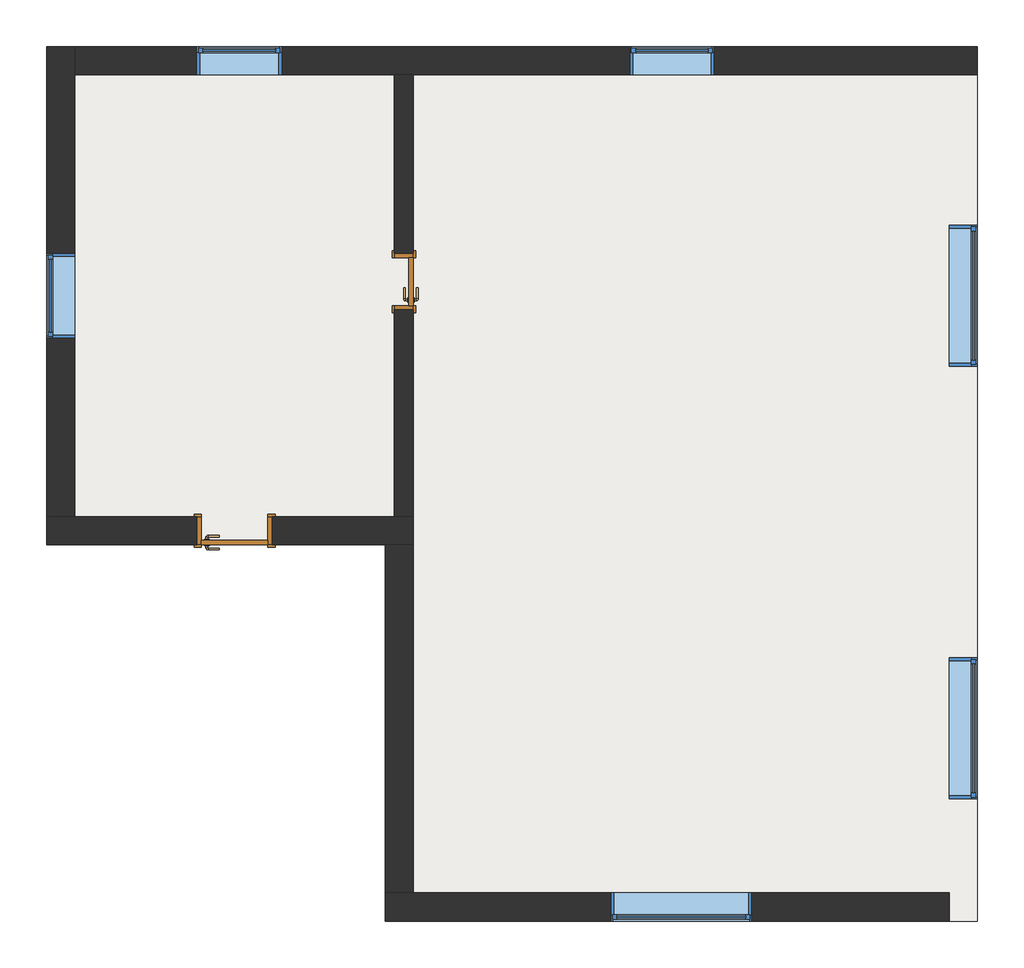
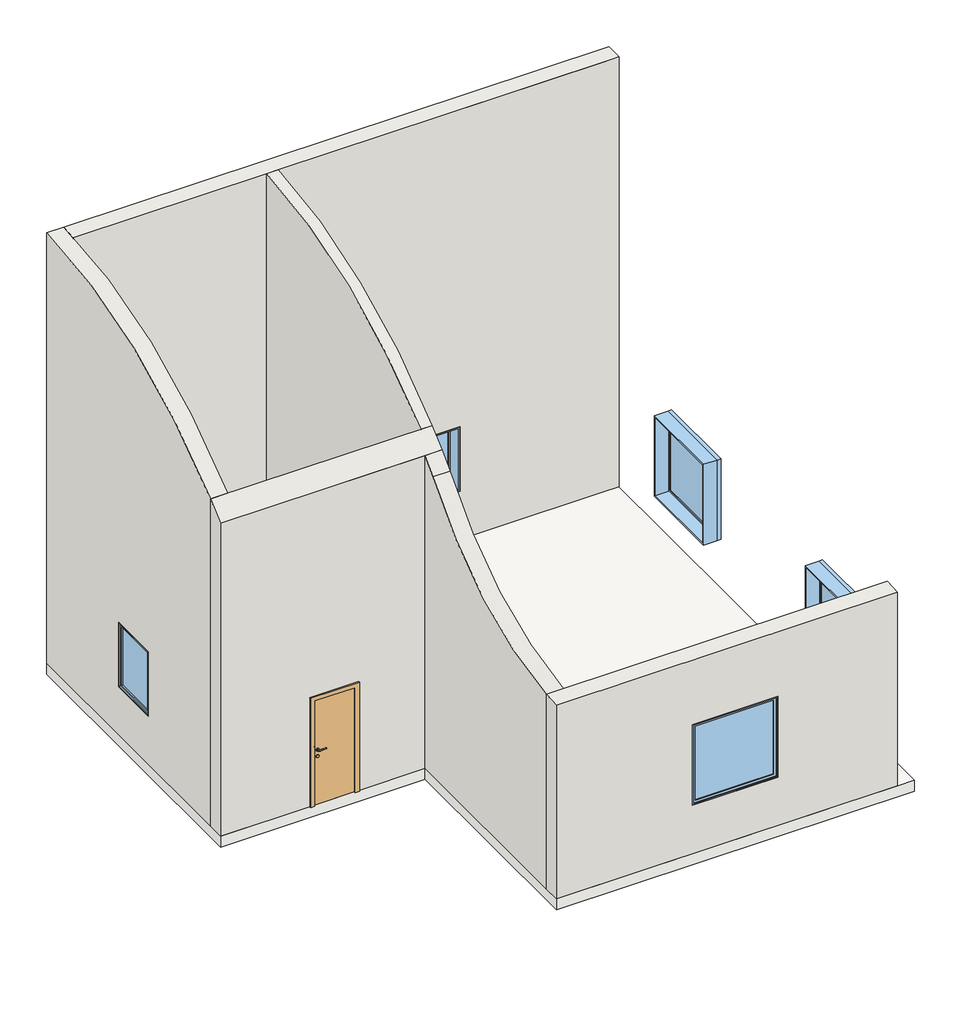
# One storey, incomplete: 6 walls, 6 windows, 2 doors, 1 slab.
"""IFC4 building model written with IfcOpenShell, lengths in millimetres."""

import ifcopenshell
import ifcopenshell.guid

model = None  # the IFC model being written
_history = None  # IfcOwnerHistory: only IFC2X3 demands one
_inside = {}  # id of a spatial element -> (the spatial element, [elements in it])
_under = {}  # id of a project, library or spatial element -> (it, [spatial elements below it])
_declared = {}  # id of a project -> (the project, [libraries it declares])
_typed = {}  # id of a type object -> (the type object, [elements of that type])
_made_of = {}  # id of a material, layer set ... -> (it, [elements and type objects made of it])


def new_model(schema):
    """Start an empty IFC model of exactly this schema.

    Asked for "IFC4X3", IfcOpenShell would pick the latest addendum, in which some entities
    have other attributes; the version numbers below select the first issue.
    IFC2X3 requires an IfcOwnerHistory on every rooted entity: one is made here for all.
    """
    global model, _history
    if schema == "IFC4X3":
        model = ifcopenshell.file(schema_version=(4, 3, 0, 0))
    else:
        model = ifcopenshell.file(schema=schema)
    _inside.clear()
    _under.clear()
    _declared.clear()
    _typed.clear()
    _made_of.clear()
    _history = None
    if model.schema == "IFC2X3":
        org = make("IfcOrganization", Name="unknown")
        user = make(
            "IfcPersonAndOrganization",
            ThePerson=make("IfcPerson", FamilyName="unknown"),
            TheOrganization=org,
        )
        app = make(
            "IfcApplication",
            ApplicationDeveloper=org,
            Version="unknown",
            ApplicationFullName="unknown",
            ApplicationIdentifier="unknown",
        )
        _history = make(
            "IfcOwnerHistory",
            OwningUser=user,
            OwningApplication=app,
            ChangeAction="ADDED",
            CreationDate=0,
        )
    return model


def make(cls, **values):
    """One entity of the class cls with the attributes given. An attribute that is None is left unset."""
    return model.create_entity(
        cls, **{name: value for name, value in values.items() if value is not None}
    )


def rooted(cls, **values):
    """An entity with a GlobalId (a new one), such as an element, a storey or a relation."""
    return make(cls, GlobalId=ifcopenshell.guid.new(), OwnerHistory=_history, **values)


def si_unit(unit_type, name, prefix=None):
    """IfcSIUnit, for example si_unit("LENGTHUNIT", "METRE", prefix="MILLI")."""
    return make("IfcSIUnit", UnitType=unit_type, Prefix=prefix, Name=name)


def assignment(units):
    """IfcUnitAssignment: the units of a project."""
    return None if units is None else make("IfcUnitAssignment", Units=units)


def point(xyz):
    """IfcCartesianPoint."""
    return None if xyz is None else make("IfcCartesianPoint", Coordinates=xyz)


def direction(xyz):
    """IfcDirection."""
    return None if xyz is None else make("IfcDirection", DirectionRatios=xyz)


def frame(location, z_axis=None, x_axis=None):
    """IfcAxis2Placement3D, a coordinate frame: its origin and axes. An axis left out is left unset."""
    return make(
        "IfcAxis2Placement3D",
        Location=point(location),
        Axis=direction(z_axis),
        RefDirection=direction(x_axis),
    )


def frame_2d(location, x_axis=None):
    """IfcAxis2Placement2D, a coordinate frame in the plane: its origin and x axis."""
    return make(
        "IfcAxis2Placement2D", Location=point(location), RefDirection=direction(x_axis)
    )


def origin():
    """The frame at (0, 0, 0) with its axes left unset."""
    return frame((0.0, 0.0, 0.0))


def origin_with_axes():
    """The frame at (0, 0, 0) with the z axis (0, 0, 1) and the x axis (1, 0, 0) written out."""
    return frame((0.0, 0.0, 0.0), z_axis=(0.0, 0.0, 1.0), x_axis=(1.0, 0.0, 0.0))


def place(relative_to, where):
    """IfcLocalPlacement: puts the frame where relative to a parent placement (None: the world)."""
    return make(
        "IfcLocalPlacement", PlacementRelTo=relative_to, RelativePlacement=where
    )


def context(
    kind, dimensions, precision=None, world=None, true_north=None, identifier=None
):
    """IfcGeometricRepresentationContext, for example the 3D "Model" context."""
    return make(
        "IfcGeometricRepresentationContext",
        ContextIdentifier=identifier,
        ContextType=kind,
        CoordinateSpaceDimension=dimensions,
        Precision=precision,
        WorldCoordinateSystem=world,
        TrueNorth=true_north,
    )


def project(units=None, contexts=None):
    """IfcProject with its units and contexts."""
    return rooted(
        "IfcProject",
        Name="project",
        RepresentationContexts=contexts,
        UnitsInContext=assignment(units),
    )


def spatial(cls, under=None, at=None, **own):
    """A site, building, storey or space (cls), placed at a placement, below another one or the project."""
    s = rooted(cls, ObjectPlacement=at, **own)
    if under is not None:
        _under.setdefault(under.id(), (under, []))[1].append(s)
    return s


def polyline(points):
    """IfcPolyline through the points."""
    return make("IfcPolyline", Points=[point(p) for p in points])


def circle_curve(where, radius):
    """IfcCircle in the frame where."""
    return make("IfcCircle", Position=where, Radius=radius)


def ellipse_curve(where, semi_axis1, semi_axis2):
    """IfcEllipse in the frame where."""
    return make(
        "IfcEllipse", Position=where, SemiAxis1=semi_axis1, SemiAxis2=semi_axis2
    )


def trimmed(basis, trim1, trim2, sense, master):
    """IfcTrimmedCurve: the piece of a basis curve between two trims."""
    return make(
        "IfcTrimmedCurve",
        BasisCurve=basis,
        Trim1=trim1,
        Trim2=trim2,
        SenseAgreement=sense,
        MasterRepresentation=master,
    )


def segment(curve, same_sense, transition):
    """IfcCompositeCurveSegment."""
    return make(
        "IfcCompositeCurveSegment",
        Transition=transition,
        SameSense=same_sense,
        ParentCurve=curve,
    )


def composite_curve(segments, self_intersect=None):
    """IfcCompositeCurve: segments joined end to end."""
    return make("IfcCompositeCurve", Segments=segments, SelfIntersect=self_intersect)


def outline(outer, holes=None, kind="AREA"):
    """IfcArbitraryClosedProfileDef: a profile drawn as a closed curve; with holes, ...WithVoids."""
    if holes is None:
        return make("IfcArbitraryClosedProfileDef", ProfileType=kind, OuterCurve=outer)
    return make(
        "IfcArbitraryProfileDefWithVoids",
        ProfileType=kind,
        OuterCurve=outer,
        InnerCurves=holes,
    )


def extrude(swept, where, along, depth):
    """IfcExtrudedAreaSolid: the profile swept, set in the frame where, extruded along a direction by depth."""
    return make(
        "IfcExtrudedAreaSolid",
        SweptArea=swept,
        Position=where,
        ExtrudedDirection=direction(along),
        Depth=depth,
    )


def shape(context_of_items, identifier, shape_type, items):
    """IfcShapeRepresentation: the items that make up one representation, for example the "Body"."""
    return make(
        "IfcShapeRepresentation",
        ContextOfItems=context_of_items,
        RepresentationIdentifier=identifier,
        RepresentationType=shape_type,
        Items=items,
    )


def source(mapping_origin, context_of_items, identifier, shape_type, items):
    """IfcRepresentationMap: a shape defined once, which mapped items show again and again."""
    return make(
        "IfcRepresentationMap",
        MappingOrigin=mapping_origin,
        MappedRepresentation=shape(context_of_items, identifier, shape_type, items),
    )


def transform(
    local_origin,
    x_axis=None,
    y_axis=None,
    z_axis=None,
    scale=None,
    scale2=None,
    scale3=None,
    uniform=True,
):
    """IfcCartesianTransformationOperator3D, or its non-uniform kind. x_axis, y_axis, z_axis: its Axis1, 2, 3."""
    if uniform:
        return make(
            "IfcCartesianTransformationOperator3D",
            Axis1=direction(x_axis),
            Axis2=direction(y_axis),
            LocalOrigin=point(local_origin),
            Scale=scale,
            Axis3=direction(z_axis),
        )
    return make(
        "IfcCartesianTransformationOperator3DnonUniform",
        Axis1=direction(x_axis),
        Axis2=direction(y_axis),
        LocalOrigin=point(local_origin),
        Scale=scale,
        Axis3=direction(z_axis),
        Scale2=scale2,
        Scale3=scale3,
    )


def mapped(mapping_source, mapping_target):
    """IfcMappedItem: shows the shape of a source again, moved by a transform."""
    return make(
        "IfcMappedItem", MappingSource=mapping_source, MappingTarget=mapping_target
    )


def made_of(thing, what):
    """Note that an element or type object is made of a material, layer set ...; save() writes the relation."""
    if what is not None:
        _made_of.setdefault(what.id(), (what, []))[1].append(thing)
    return thing


def element(
    cls,
    number,
    at=None,
    inside=None,
    cuts=None,
    type_object=None,
    material=None,
    context=None,
    identifier="Body",
    shape_type=None,
    held_by="IfcProductDefinitionShape",
    body=None,
    shapes=None,
    **own,
):
    """One element of the class cls, such as IfcWall. Its Tag is "e" and its number.

    at: its placement. inside: the storey or other place that contains it. cuts: it is an
    opening in that element (IfcRelVoidsElement). A single representation is given by context,
    identifier, shape_type and body (its items); several are given by shapes. held_by: the class
    of the entity that holds the representations. save() writes the other relations.
    """
    e = rooted(cls, Tag="e%d" % number, ObjectPlacement=at, **own)
    if body is not None:
        shapes = [shape(context, identifier, shape_type, body)]
    if shapes is not None:
        e.Representation = make(held_by, Representations=shapes)
    if inside is not None:
        _inside.setdefault(inside.id(), (inside, []))[1].append(e)
    if cuts is not None:
        rooted(
            "IfcRelVoidsElement", RelatingBuildingElement=cuts, RelatedOpeningElement=e
        )
    if type_object is not None:
        _typed.setdefault(type_object.id(), (type_object, []))[1].append(e)
    return made_of(e, material)


def aggregate(whole, parts):
    """IfcRelAggregates: a whole, such as a stair, and the parts it consists of."""
    return rooted("IfcRelAggregates", RelatingObject=whole, RelatedObjects=parts)


def save(model, path):
    """Write the relations noted so far, then the file.

    IfcRelAggregates (storeys below a building ...), IfcRelContainedInSpatialStructure (elements
    in a storey), IfcRelDefinesByType, IfcRelAssociatesMaterial and IfcRelDeclares: one each for
    every whole, place, type object, material and project.
    """
    for whole, parts in _under.values():
        aggregate(whole, parts)
    for where, things in _inside.values():
        rooted(
            "IfcRelContainedInSpatialStructure",
            RelatedElements=things,
            RelatingStructure=where,
        )
    for kind, things in _typed.values():
        rooted("IfcRelDefinesByType", RelatedObjects=things, RelatingType=kind)
    for what, things in _made_of.values():
        rooted("IfcRelAssociatesMaterial", RelatedObjects=things, RelatingMaterial=what)
    for by, libraries in _declared.values():
        rooted("IfcRelDeclares", RelatingContext=by, RelatedDefinitions=libraries)
    model.write(path)


def plane_surface(at):
    """IfcPlane: the flat surface through the origin of the frame at, square to its z axis."""
    return make("IfcPlane", Position=at)


def cylinder_surface(at, radius):
    """IfcCylindricalSurface: all points at the distance radius from the z axis of the frame at."""
    return make("IfcCylindricalSurface", Position=at, Radius=radius)


def revolved_surface(curve, axis_point, axis_direction):
    """IfcSurfaceOfRevolution: the curve turned about the line through axis_point along axis_direction."""
    return make(
        "IfcSurfaceOfRevolution",
        SweptCurve=make("IfcArbitraryOpenProfileDef", ProfileType="CURVE", Curve=curve),
        AxisPosition=make("IfcAxis1Placement", Location=point(axis_point), Axis=direction(axis_direction)),
    )


def advanced_brep(points, edges, surfaces, faces):
    """IfcAdvancedBrep: a solid bounded by faces that lie on surfaces and meet in shared edges.

    An edge is (start, end): straight between two places in points (the first is 0);
    or (start, end, curve); or (start, end, curve, False) where it runs against its curve.
    A face is (place in surfaces, loops), or (place, loops, False) where it looks against
    its surface's normal. A loop lists edges by number (the first is 1), with a minus sign
    where the edge is run from its end to its start. The first loop is the outer one.
    """
    corners = [point(p) for p in points]
    vertices = [make("IfcVertexPoint", VertexGeometry=c) for c in corners]
    made = []
    for start, end, *more in edges:
        made.append(
            make(
                "IfcEdgeCurve",
                EdgeStart=vertices[start],
                EdgeEnd=vertices[end],
                EdgeGeometry=more[0] if more else make("IfcPolyline", Points=[corners[start], corners[end]]),
                SameSense=more[1] if len(more) > 1 else True,
            )
        )
    hull = []
    for where, loops, *sense in faces:
        bounds = []
        for j, loop in enumerate(loops):
            ring = [make("IfcOrientedEdge", EdgeElement=made[abs(k) - 1], Orientation=k > 0) for k in loop]
            bounds.append(
                make(
                    "IfcFaceOuterBound" if j == 0 else "IfcFaceBound",
                    Bound=make("IfcEdgeLoop", EdgeList=ring),
                    Orientation=True,
                )
            )
        hull.append(make("IfcAdvancedFace", Bounds=bounds, FaceSurface=surfaces[where], SameSense=sense[0] if sense else True))
    return make("IfcAdvancedBrep", Outer=make("IfcClosedShell", CfsFaces=hull))


def m0618_80e2c4cc(model_context):
    return source(origin(), model_context, "Body", "SolidModel", [
        extrude(outline(composite_curve([segment(trimmed(circle_curve(frame_2d((900.0, -195.0)), 25.0), [point((900.0, -170.0))], [point((900.0, -220.0))], False, "CARTESIAN"), True, "CONTINUOUS"), segment(trimmed(circle_curve(frame_2d((900.0, -195.0)), 25.0), [point((900.0, -220.0))], [point((900.0, -170.0))], False, "CARTESIAN"), True, "CONTINUOUS")], self_intersect=False)), frame((0.0, -50.0, 0.0), z_axis=(0.0, 1.0, 0.0), x_axis=(0.0, 0.0, 1.0)), (0.0, 0.0, 1.0), 10.0),
        extrude(outline(composite_curve([segment(trimmed(circle_curve(frame_2d((900.0, -195.0)), 25.0), [point((900.0, -170.0))], [point((900.0, -220.0))], False, "CARTESIAN"), True, "CONTINUOUS"), segment(trimmed(circle_curve(frame_2d((900.0, -195.0)), 25.0), [point((900.0, -220.0))], [point((900.0, -170.0))], False, "CARTESIAN"), True, "CONTINUOUS")], self_intersect=False)), frame((0.0, -110.0, 0.0), z_axis=(0.0, 1.0, 0.0), x_axis=(0.0, 0.0, 1.0)), (0.0, 0.0, 1.0), 10.0),
        advanced_brep(
        [(-205.0, -40.0, 1020.0), (-185.0, -40.0, 1020.0), (-205.0, -19.386645, 1020.0), (-185.0, -19.386645, 1020.0), (-63.419036, 3.580964, 1020.0), (-63.419036, -16.419036, 1020.0), (-182.0323911, -16.419036, 1020.0), (-182.0323911, 3.580964, 1020.0)],
        [
            (0, 1, circle_curve(frame((-195.0, -40.0, 1020.0), z_axis=(0.0, -1.0, 0.0), x_axis=(1.0, 0.0, 0.0)), 10.0)),
            (1, 0, circle_curve(frame((-195.0, -40.0, 1020.0), z_axis=(0.0, -1.0, 0.0), x_axis=(1.0, 0.0, 0.0)), 10.0)),
            (0, 2),
            (2, 3, circle_curve(frame((-195.0, -19.386645, 1020.0), z_axis=(0.0, -1.0, 0.0), x_axis=(1.0, 0.0, 0.0)), 10.0)),
            (3, 1),
            (3, 2, circle_curve(frame((-195.0, -19.386645, 1020.0), z_axis=(0.0, -1.0, 0.0), x_axis=(1.0, 0.0, 0.0)), 10.0)),
            (4, 5, circle_curve(frame((-63.419036, -6.419036, 1020.0), z_axis=(1.0, 0.0, 0.0), x_axis=(0.0, -1.0, 0.0)), 10.0)),
            (5, 4, circle_curve(frame((-63.419036, -6.419036, 1020.0), z_axis=(1.0, 0.0, 0.0), x_axis=(0.0, -1.0, 0.0)), 10.0)),
            (6, 7, circle_curve(frame((-182.0323911, -6.419036, 1020.0), z_axis=(-1.0, 0.0, 0.0), x_axis=(0.0, -1.0, 0.0)), 10.0)),
            (7, 2, circle_curve(frame((-182.0323911, -19.386645, 1020.0), z_axis=(0.0, 0.0, 1.0), x_axis=(-1.0, 0.0, 0.0)), 22.9676089)),
            (3, 6, circle_curve(frame((-182.0323911, -19.386645, 1020.0), z_axis=(0.0, 0.0, -1.0), x_axis=(-1.0, 0.0, 0.0)), 2.9676089)),
            (7, 6, circle_curve(frame((-182.0323911, -6.419036, 1020.0), z_axis=(-1.0, 0.0, 0.0), x_axis=(0.0, -1.0, 0.0)), 10.0)),
            (6, 5),
            (4, 7),
        ],
        [
            plane_surface(frame((-195.0, -40.0, 900.0), z_axis=(0.0, -1.0, 0.0), x_axis=(0.0, 0.0, 1.0))),
            cylinder_surface(frame((-195.0, -40.0, 1020.0), z_axis=(0.0, -1.0, 0.0), x_axis=(1.0, 0.0, 0.0)), 10.0),
            plane_surface(frame((-63.419036, -6.419036, 900.0), z_axis=(1.0, 0.0, 0.0), x_axis=(0.0, 0.0, 1.0))),
            revolved_surface(trimmed(ellipse_curve(frame((-195.0, -19.386645, 1020.0), z_axis=(0.0, 1.0, 0.0), x_axis=(1.0, 0.0, 0.0)), 10.0, 10.0), [point((-205.0, -19.386645, 1020.0))], [point((-185.0, -19.386645, 1020.0))], True, "CARTESIAN"), (-182.0323911, -19.386645, 900.0), (0.0, 0.0, 1.0)),
            revolved_surface(trimmed(ellipse_curve(frame((-195.0, -19.386645, 1020.0), z_axis=(0.0, 1.0, 0.0), x_axis=(1.0, 0.0, 0.0)), 10.0, 10.0), [point((-185.0, -19.386645, 1020.0))], [point((-205.0, -19.386645, 1020.0))], True, "CARTESIAN"), (-182.0323911, -19.386645, 900.0), (0.0, 0.0, 1.0)),
            cylinder_surface(frame((-182.0323911, -6.419036, 1020.0), z_axis=(-1.0, 0.0, 0.0), x_axis=(0.0, -1.0, 0.0)), 10.0),
        ],
        [
            (0, [[1, 2]]),
            (1, [[3, 4, 5, -1]]),
            (1, [[-5, 6, -3, -2]]),
            (2, [[7, 8]]),
            (3, [[9, 10, -6, 11]]),
            (4, [[12, -11, -4, -10]]),
            (5, [[13, -7, 14, -9]]),
            (5, [[-14, -8, -13, -12]]),
        ],
    ),
        extrude(outline(composite_curve([segment(trimmed(circle_curve(frame_2d((1020.0, -195.0)), 25.0), [point((1020.0, -170.0))], [point((1020.0, -220.0))], False, "CARTESIAN"), True, "CONTINUOUS"), segment(trimmed(circle_curve(frame_2d((1020.0, -195.0)), 25.0), [point((1020.0, -220.0))], [point((1020.0, -170.0))], False, "CARTESIAN"), True, "CONTINUOUS")], self_intersect=False)), frame((0.0, -50.0, 0.0), z_axis=(0.0, 1.0, 0.0), x_axis=(0.0, 0.0, 1.0)), (0.0, 0.0, 1.0), 10.0),
        advanced_brep(
        [(-185.0, -110.0, 1020.0), (-205.0, -110.0, 1020.0), (-205.0, -130.6133551, 1020.0), (-185.0, -130.6133551, 1020.0), (-63.419036, -133.580964, 1020.0), (-63.419036, -153.580964, 1020.0), (-182.0323911, -153.580964, 1020.0), (-182.0323911, -133.580964, 1020.0)],
        [
            (0, 1, circle_curve(frame((-195.0, -110.0, 1020.0), z_axis=(0.0, 1.0, 0.0), x_axis=(-1.0, 0.0, 0.0)), 10.0)),
            (1, 0, circle_curve(frame((-195.0, -110.0, 1020.0), z_axis=(0.0, 1.0, 0.0), x_axis=(-1.0, 0.0, 0.0)), 10.0)),
            (1, 2),
            (2, 3, circle_curve(frame((-195.0, -130.6133551, 1020.0), z_axis=(0.0, 1.0, 0.0), x_axis=(-1.0, 0.0, 0.0)), 10.0)),
            (3, 0),
            (3, 2, circle_curve(frame((-195.0, -130.6133551, 1020.0), z_axis=(0.0, 1.0, 0.0), x_axis=(-1.0, 0.0, 0.0)), 10.0)),
            (4, 5, circle_curve(frame((-63.419036, -143.580964, 1020.0), z_axis=(1.0, 0.0, 0.0), x_axis=(0.0, -1.0, 0.0)), 10.0)),
            (5, 4, circle_curve(frame((-63.419036, -143.580964, 1020.0), z_axis=(1.0, 0.0, 0.0), x_axis=(0.0, -1.0, 0.0)), 10.0)),
            (6, 7, circle_curve(frame((-182.0323911, -143.580964, 1020.0), z_axis=(-1.0, 0.0, 0.0), x_axis=(0.0, -1.0, 0.0)), 10.0)),
            (7, 3, circle_curve(frame((-182.0323911, -130.6133551, 1020.0), z_axis=(0.0, 0.0, -1.0), x_axis=(-1.0, 0.0, 0.0)), 2.9676089)),
            (2, 6, circle_curve(frame((-182.0323911, -130.6133551, 1020.0), z_axis=(0.0, 0.0, 1.0), x_axis=(-1.0, 0.0, 0.0)), 22.9676089)),
            (7, 6, circle_curve(frame((-182.0323911, -143.580964, 1020.0), z_axis=(-1.0, 0.0, 0.0), x_axis=(0.0, -1.0, 0.0)), 10.0)),
            (6, 5),
            (4, 7),
        ],
        [
            plane_surface(frame((-195.0, -110.0, 900.0), z_axis=(0.0, 1.0, 0.0), x_axis=(0.0, 0.0, 1.0))),
            cylinder_surface(frame((-195.0, -110.0, 1020.0), z_axis=(0.0, 1.0, 0.0), x_axis=(-1.0, 0.0, 0.0)), 10.0),
            plane_surface(frame((-63.419036, -143.580964, 900.0), z_axis=(1.0, 0.0, 0.0), x_axis=(0.0, 0.0, 1.0))),
            revolved_surface(trimmed(ellipse_curve(frame((-195.0, -130.6133551, 1020.0), z_axis=(0.0, -1.0, 0.0), x_axis=(-1.0, 0.0, 0.0)), 10.0, 10.0), [point((-185.0, -130.6133551, 1020.0))], [point((-205.0, -130.6133551, 1020.0))], True, "CARTESIAN"), (-182.0323911, -130.6133551, 900.0), (0.0, 0.0, -1.0)),
            revolved_surface(trimmed(ellipse_curve(frame((-195.0, -130.6133551, 1020.0), z_axis=(0.0, -1.0, 0.0), x_axis=(-1.0, 0.0, 0.0)), 10.0, 10.0), [point((-205.0, -130.6133551, 1020.0))], [point((-185.0, -130.6133551, 1020.0))], True, "CARTESIAN"), (-182.0323911, -130.6133551, 900.0), (0.0, 0.0, -1.0)),
            cylinder_surface(frame((-182.0323911, -143.580964, 1020.0), z_axis=(-1.0, 0.0, 0.0), x_axis=(0.0, -1.0, 0.0)), 10.0),
        ],
        [
            (0, [[1, 2]]),
            (1, [[3, 4, 5, -2]]),
            (1, [[-5, 6, -3, -1]]),
            (2, [[7, 8]]),
            (3, [[9, 10, -4, 11]]),
            (4, [[12, -11, -6, -10]]),
            (5, [[13, -7, 14, -9]]),
            (5, [[-14, -8, -13, -12]]),
        ],
    ),
        extrude(outline(composite_curve([segment(trimmed(circle_curve(frame_2d((1020.0, -195.0)), 25.0), [point((1020.0, -170.0))], [point((1020.0, -220.0))], False, "CARTESIAN"), True, "CONTINUOUS"), segment(trimmed(circle_curve(frame_2d((1020.0, -195.0)), 25.0), [point((1020.0, -220.0))], [point((1020.0, -170.0))], False, "CARTESIAN"), True, "CONTINUOUS")], self_intersect=False)), frame((0.0, -110.0, 0.0), z_axis=(0.0, 1.0, 0.0), x_axis=(0.0, 0.0, 1.0)), (0.0, 0.0, 1.0), 10.0),
        extrude(outline(polyline([(0.0, 330.0), (1830.0, 330.0), (1830.0, -330.0), (0.0, -330.0), (0.0, -255.0), (1755.0, -255.0), (1755.0, 255.0), (0.0, 255.0), (0.0, 330.0)])), frame((0.0, -125.0, 0.0), z_axis=(0.0, 1.0, 0.0), x_axis=(0.0, 0.0, 1.0)), (0.0, 0.0, 1.0), 25.0),
        extrude(outline(polyline([(1830.0, 330.0), (1830.0, -330.0), (0.0, -330.0), (0.0, -255.0), (1755.0, -255.0), (1755.0, 255.0), (0.0, 255.0), (0.0, 330.0), (1830.0, 330.0)])), frame((0.0, 100.0, 0.0), z_axis=(0.0, 1.0, 0.0), x_axis=(0.0, 0.0, 1.0)), (0.0, 0.0, 1.0), 25.0),
        extrude(outline(polyline([(255.0, -50.0), (255.0, -100.0), (-255.0, -100.0), (-255.0, -50.0), (255.0, -50.0)])), origin_with_axes(), (0.0, 0.0, 1.0), 1755.0),
        extrude(outline(polyline([(1800.0, -300.0), (0.0, -300.0), (0.0, -255.0), (1755.0, -255.0), (1755.0, 255.0), (0.0, 255.0), (0.0, 300.0), (1800.0, 300.0), (1800.0, -300.0)])), frame((0.0, -100.0, 0.0), z_axis=(0.0, 1.0, 0.0), x_axis=(0.0, 0.0, 1.0)), (0.0, 0.0, 1.0), 200.0),
    ])


def m0820_7395a0fb(model_context):
    return source(origin(), model_context, "Body", "SolidModel", [
        extrude(outline(composite_curve([segment(trimmed(circle_curve(frame_2d((900.0, -295.0)), 25.0), [point((900.0, -270.0))], [point((900.0, -320.0))], False, "CARTESIAN"), True, "CONTINUOUS"), segment(trimmed(circle_curve(frame_2d((900.0, -295.0)), 25.0), [point((900.0, -320.0))], [point((900.0, -270.0))], False, "CARTESIAN"), True, "CONTINUOUS")], self_intersect=False)), frame((0.0, -100.0, 0.0), z_axis=(0.0, 1.0, 0.0), x_axis=(0.0, 0.0, 1.0)), (0.0, 0.0, 1.0), 10.0),
        extrude(outline(composite_curve([segment(trimmed(circle_curve(frame_2d((900.0, -295.0)), 25.0), [point((900.0, -270.0))], [point((900.0, -320.0))], False, "CARTESIAN"), True, "CONTINUOUS"), segment(trimmed(circle_curve(frame_2d((900.0, -295.0)), 25.0), [point((900.0, -320.0))], [point((900.0, -270.0))], False, "CARTESIAN"), True, "CONTINUOUS")], self_intersect=False)), frame((0.0, -160.0, 0.0), z_axis=(0.0, 1.0, 0.0), x_axis=(0.0, 0.0, 1.0)), (0.0, 0.0, 1.0), 10.0),
        advanced_brep(
        [(-305.0, -90.0, 1020.0), (-285.0, -90.0, 1020.0), (-305.0, -69.3866449, 1020.0), (-285.0, -69.3866449, 1020.0), (-163.419036, -46.419036, 1020.0), (-163.419036, -66.419036, 1020.0), (-282.0323911, -66.419036, 1020.0), (-282.0323911, -46.419036, 1020.0)],
        [
            (0, 1, circle_curve(frame((-295.0, -90.0, 1020.0), z_axis=(0.0, -1.0, 0.0), x_axis=(1.0, 0.0, 0.0)), 10.0)),
            (1, 0, circle_curve(frame((-295.0, -90.0, 1020.0), z_axis=(0.0, -1.0, 0.0), x_axis=(1.0, 0.0, 0.0)), 10.0)),
            (0, 2),
            (2, 3, circle_curve(frame((-295.0, -69.3866449, 1020.0), z_axis=(0.0, -1.0, 0.0), x_axis=(1.0, 0.0, 0.0)), 10.0)),
            (3, 1),
            (3, 2, circle_curve(frame((-295.0, -69.3866449, 1020.0), z_axis=(0.0, -1.0, 0.0), x_axis=(1.0, 0.0, 0.0)), 10.0)),
            (4, 5, circle_curve(frame((-163.419036, -56.419036, 1020.0), z_axis=(1.0, 0.0, 0.0), x_axis=(0.0, -1.0, 0.0)), 10.0)),
            (5, 4, circle_curve(frame((-163.419036, -56.419036, 1020.0), z_axis=(1.0, 0.0, 0.0), x_axis=(0.0, -1.0, 0.0)), 10.0)),
            (6, 7, circle_curve(frame((-282.0323911, -56.419036, 1020.0), z_axis=(-1.0, 0.0, 0.0), x_axis=(0.0, -1.0, 0.0)), 10.0)),
            (7, 2, circle_curve(frame((-282.0323911, -69.3866449, 1020.0), z_axis=(0.0, 0.0, 1.0), x_axis=(-1.0, 0.0, 0.0)), 22.9676089)),
            (3, 6, circle_curve(frame((-282.0323911, -69.3866449, 1020.0), z_axis=(0.0, 0.0, -1.0), x_axis=(-1.0, 0.0, 0.0)), 2.9676089)),
            (7, 6, circle_curve(frame((-282.0323911, -56.419036, 1020.0), z_axis=(-1.0, 0.0, 0.0), x_axis=(0.0, -1.0, 0.0)), 10.0)),
            (6, 5),
            (4, 7),
        ],
        [
            plane_surface(frame((-295.0, -90.0, 900.0), z_axis=(0.0, -1.0, 0.0), x_axis=(0.0, 0.0, 1.0))),
            cylinder_surface(frame((-295.0, -90.0, 1020.0), z_axis=(0.0, -1.0, 0.0), x_axis=(1.0, 0.0, 0.0)), 10.0),
            plane_surface(frame((-163.419036, -56.419036, 900.0), z_axis=(1.0, 0.0, 0.0), x_axis=(0.0, 0.0, 1.0))),
            revolved_surface(trimmed(ellipse_curve(frame((-295.0, -69.3866449, 1020.0), z_axis=(0.0, 1.0, 0.0), x_axis=(1.0, 0.0, 0.0)), 10.0, 10.0), [point((-305.0, -69.3866449, 1020.0))], [point((-285.0, -69.3866449, 1020.0))], True, "CARTESIAN"), (-282.0323911, -69.3866449, 900.0), (0.0, 0.0, 1.0)),
            revolved_surface(trimmed(ellipse_curve(frame((-295.0, -69.3866449, 1020.0), z_axis=(0.0, 1.0, 0.0), x_axis=(1.0, 0.0, 0.0)), 10.0, 10.0), [point((-285.0, -69.3866449, 1020.0))], [point((-305.0, -69.3866449, 1020.0))], True, "CARTESIAN"), (-282.0323911, -69.3866449, 900.0), (0.0, 0.0, 1.0)),
            cylinder_surface(frame((-282.0323911, -56.419036, 1020.0), z_axis=(-1.0, 0.0, 0.0), x_axis=(0.0, -1.0, 0.0)), 10.0),
        ],
        [
            (0, [[1, 2]]),
            (1, [[3, 4, 5, -1]]),
            (1, [[-5, 6, -3, -2]]),
            (2, [[7, 8]]),
            (3, [[9, 10, -6, 11]]),
            (4, [[12, -11, -4, -10]]),
            (5, [[13, -7, 14, -9]]),
            (5, [[-14, -8, -13, -12]]),
        ],
    ),
        extrude(outline(composite_curve([segment(trimmed(circle_curve(frame_2d((1020.0, -295.0)), 25.0), [point((1020.0, -270.0))], [point((1020.0, -320.0))], False, "CARTESIAN"), True, "CONTINUOUS"), segment(trimmed(circle_curve(frame_2d((1020.0, -295.0)), 25.0), [point((1020.0, -320.0))], [point((1020.0, -270.0))], False, "CARTESIAN"), True, "CONTINUOUS")], self_intersect=False)), frame((0.0, -100.0, 0.0), z_axis=(0.0, 1.0, 0.0), x_axis=(0.0, 0.0, 1.0)), (0.0, 0.0, 1.0), 10.0),
        advanced_brep(
        [(-285.0, -160.0, 1020.0), (-305.0, -160.0, 1020.0), (-305.0, -180.6133551, 1020.0), (-285.0, -180.6133551, 1020.0), (-163.419036, -183.580964, 1020.0), (-163.419036, -203.580964, 1020.0), (-282.0323911, -203.580964, 1020.0), (-282.0323911, -183.580964, 1020.0)],
        [
            (0, 1, circle_curve(frame((-295.0, -160.0, 1020.0), z_axis=(0.0, 1.0, 0.0), x_axis=(-1.0, 0.0, 0.0)), 10.0)),
            (1, 0, circle_curve(frame((-295.0, -160.0, 1020.0), z_axis=(0.0, 1.0, 0.0), x_axis=(-1.0, 0.0, 0.0)), 10.0)),
            (1, 2),
            (2, 3, circle_curve(frame((-295.0, -180.6133551, 1020.0), z_axis=(0.0, 1.0, 0.0), x_axis=(-1.0, 0.0, 0.0)), 10.0)),
            (3, 0),
            (3, 2, circle_curve(frame((-295.0, -180.6133551, 1020.0), z_axis=(0.0, 1.0, 0.0), x_axis=(-1.0, 0.0, 0.0)), 10.0)),
            (4, 5, circle_curve(frame((-163.419036, -193.580964, 1020.0), z_axis=(1.0, 0.0, 0.0), x_axis=(0.0, -1.0, 0.0)), 10.0)),
            (5, 4, circle_curve(frame((-163.419036, -193.580964, 1020.0), z_axis=(1.0, 0.0, 0.0), x_axis=(0.0, -1.0, 0.0)), 10.0)),
            (6, 7, circle_curve(frame((-282.0323911, -193.580964, 1020.0), z_axis=(-1.0, 0.0, 0.0), x_axis=(0.0, -1.0, 0.0)), 10.0)),
            (7, 3, circle_curve(frame((-282.0323911, -180.6133551, 1020.0), z_axis=(0.0, 0.0, -1.0), x_axis=(-1.0, 0.0, 0.0)), 2.9676089)),
            (2, 6, circle_curve(frame((-282.0323911, -180.6133551, 1020.0), z_axis=(0.0, 0.0, 1.0), x_axis=(-1.0, 0.0, 0.0)), 22.9676089)),
            (7, 6, circle_curve(frame((-282.0323911, -193.580964, 1020.0), z_axis=(-1.0, 0.0, 0.0), x_axis=(0.0, -1.0, 0.0)), 10.0)),
            (6, 5),
            (4, 7),
        ],
        [
            plane_surface(frame((-295.0, -160.0, 900.0), z_axis=(0.0, 1.0, 0.0), x_axis=(0.0, 0.0, 1.0))),
            cylinder_surface(frame((-295.0, -160.0, 1020.0), z_axis=(0.0, 1.0, 0.0), x_axis=(-1.0, 0.0, 0.0)), 10.0),
            plane_surface(frame((-163.419036, -193.580964, 900.0), z_axis=(1.0, 0.0, 0.0), x_axis=(0.0, 0.0, 1.0))),
            revolved_surface(trimmed(ellipse_curve(frame((-295.0, -180.6133551, 1020.0), z_axis=(0.0, -1.0, 0.0), x_axis=(-1.0, 0.0, 0.0)), 10.0, 10.0), [point((-285.0, -180.6133551, 1020.0))], [point((-305.0, -180.6133551, 1020.0))], True, "CARTESIAN"), (-282.0323911, -180.6133551, 900.0), (0.0, 0.0, -1.0)),
            revolved_surface(trimmed(ellipse_curve(frame((-295.0, -180.6133551, 1020.0), z_axis=(0.0, -1.0, 0.0), x_axis=(-1.0, 0.0, 0.0)), 10.0, 10.0), [point((-305.0, -180.6133551, 1020.0))], [point((-285.0, -180.6133551, 1020.0))], True, "CARTESIAN"), (-282.0323911, -180.6133551, 900.0), (0.0, 0.0, -1.0)),
            cylinder_surface(frame((-282.0323911, -193.580964, 1020.0), z_axis=(-1.0, 0.0, 0.0), x_axis=(0.0, -1.0, 0.0)), 10.0),
        ],
        [
            (0, [[1, 2]]),
            (1, [[3, 4, 5, -2]]),
            (1, [[-5, 6, -3, -1]]),
            (2, [[7, 8]]),
            (3, [[9, 10, -4, 11]]),
            (4, [[12, -11, -6, -10]]),
            (5, [[13, -7, 14, -9]]),
            (5, [[-14, -8, -13, -12]]),
        ],
    ),
        extrude(outline(composite_curve([segment(trimmed(circle_curve(frame_2d((1020.0, -295.0)), 25.0), [point((1020.0, -270.0))], [point((1020.0, -320.0))], False, "CARTESIAN"), True, "CONTINUOUS"), segment(trimmed(circle_curve(frame_2d((1020.0, -295.0)), 25.0), [point((1020.0, -320.0))], [point((1020.0, -270.0))], False, "CARTESIAN"), True, "CONTINUOUS")], self_intersect=False)), frame((0.0, -160.0, 0.0), z_axis=(0.0, 1.0, 0.0), x_axis=(0.0, 0.0, 1.0)), (0.0, 0.0, 1.0), 10.0),
        extrude(outline(polyline([(0.0, 430.0), (2030.0, 430.0), (2030.0, -430.0), (0.0, -430.0), (0.0, -355.0), (1955.0, -355.0), (1955.0, 355.0), (0.0, 355.0), (0.0, 430.0)])), frame((0.0, -175.0, 0.0), z_axis=(0.0, 1.0, 0.0), x_axis=(0.0, 0.0, 1.0)), (0.0, 0.0, 1.0), 25.0),
        extrude(outline(polyline([(2030.0, 430.0), (2030.0, -430.0), (0.0, -430.0), (0.0, -355.0), (1955.0, -355.0), (1955.0, 355.0), (0.0, 355.0), (0.0, 430.0), (2030.0, 430.0)])), frame((0.0, 150.0, 0.0), z_axis=(0.0, 1.0, 0.0), x_axis=(0.0, 0.0, 1.0)), (0.0, 0.0, 1.0), 25.0),
        extrude(outline(polyline([(355.0, -100.0), (355.0, -150.0), (-355.0, -150.0), (-355.0, -100.0), (355.0, -100.0)])), origin_with_axes(), (0.0, 0.0, 1.0), 1955.0),
        extrude(outline(polyline([(2000.0, -400.0), (0.0, -400.0), (0.0, -355.0), (1955.0, -355.0), (1955.0, 355.0), (0.0, 355.0), (0.0, 400.0), (2000.0, 400.0), (2000.0, -400.0)])), frame((0.0, -150.0, 0.0), z_axis=(0.0, 1.0, 0.0), x_axis=(0.0, 0.0, 1.0)), (0.0, 0.0, 1.0), 300.0),
    ])


def c0912_61d2042c(model_context):
    return source(origin(), model_context, "Body", "SweptSolid", [
        extrude(outline(polyline([(348.4, 101.425), (-424.6, 101.425), (-424.6, 114.125), (348.4, 114.125), (348.4, 101.425)])), frame((0.0, 0.0, 963.5), z_axis=(0.0, 0.0, 1.0), x_axis=(1.0, 0.0, 0.0)), (0.0, 0.0, 1.0), 1073.0),
        extrude(outline(polyline([(2080.95, -469.05), (919.05, -469.05), (919.05, 392.85), (2080.95, 392.85), (2080.95, -469.05)]), holes=[polyline([(2036.5, -424.6), (2036.5, 348.4), (963.5, 348.4), (963.5, -424.6), (2036.5, -424.6)])]), frame((0.0, 85.55, 0.0), z_axis=(0.0, 1.0, 0.0), x_axis=(0.0, 0.0, 1.0)), (0.0, 0.0, 1.0), 44.45),
        extrude(outline(polyline([(2100.0, -488.1), (900.0, -488.1), (900.0, 411.9), (2100.0, 411.9), (2100.0, -488.1)]), holes=[polyline([(2068.25, -456.35), (2068.25, 380.15), (931.75, 380.15), (931.75, -456.35), (2068.25, -456.35)])]), frame((0.0, -150.0, 0.0), z_axis=(0.0, 1.0, 0.0), x_axis=(0.0, 0.0, 1.0)), (0.0, 0.0, 1.0), 235.55),
        extrude(outline(polyline([(2100.0, 411.9), (2100.0, -488.1), (900.0, -488.1), (900.0, 411.9), (2100.0, 411.9)]), holes=[polyline([(2080.95, 392.85), (919.05, 392.85), (919.05, -469.05), (2080.95, -469.05), (2080.95, 392.85)])]), frame((0.0, 85.55, 0.0), z_axis=(0.0, 1.0, 0.0), x_axis=(0.0, 0.0, 1.0)), (0.0, 0.0, 1.0), 64.45),
    ])


def c1515_7a129a67(model_context):
    return source(origin(), model_context, "Body", "SweptSolid", [
        extrude(outline(polyline([(648.4, 101.425), (-724.6, 101.425), (-724.6, 114.125), (648.4, 114.125), (648.4, 101.425)])), frame((0.0, 0.0, 963.5), z_axis=(0.0, 0.0, 1.0), x_axis=(1.0, 0.0, 0.0)), (0.0, 0.0, 1.0), 1373.0),
        extrude(outline(polyline([(2380.95, -769.05), (919.05, -769.05), (919.05, 692.85), (2380.95, 692.85), (2380.95, -769.05)]), holes=[polyline([(2336.5, -724.6), (2336.5, 648.4), (963.5, 648.4), (963.5, -724.6), (2336.5, -724.6)])]), frame((0.0, 85.55, 0.0), z_axis=(0.0, 1.0, 0.0), x_axis=(0.0, 0.0, 1.0)), (0.0, 0.0, 1.0), 44.45),
        extrude(outline(polyline([(2400.0, -788.1), (900.0, -788.1), (900.0, 711.9), (2400.0, 711.9), (2400.0, -788.1)]), holes=[polyline([(2368.25, -756.35), (2368.25, 680.15), (931.75, 680.15), (931.75, -756.35), (2368.25, -756.35)])]), frame((0.0, -150.0, 0.0), z_axis=(0.0, 1.0, 0.0), x_axis=(0.0, 0.0, 1.0)), (0.0, 0.0, 1.0), 235.55),
        extrude(outline(polyline([(2400.0, 711.9), (2400.0, -788.1), (900.0, -788.1), (900.0, 711.9), (2400.0, 711.9)]), holes=[polyline([(2380.95, 692.85), (919.05, 692.85), (919.05, -769.05), (2380.95, -769.05), (2380.95, 692.85)])]), frame((0.0, 85.55, 0.0), z_axis=(0.0, 1.0, 0.0), x_axis=(0.0, 0.0, 1.0)), (0.0, 0.0, 1.0), 64.45),
    ])


model = new_model("IFC4")

# Units and contexts
model_context = context("Model", 3, world=origin())
ifc_project = project(units=[si_unit("LENGTHUNIT", "METRE", prefix="MILLI")], contexts=[model_context])

# Site, building, storey
site = spatial("IfcSite", under=ifc_project)
building = spatial("IfcBuilding", under=site)
storey = spatial("IfcBuildingStorey", under=building, Name="标高 1", Elevation=0.0)

# Doors
placement = place(None, origin())
m0618_shape = m0618_80e2c4cc(model_context)
element("IfcDoor", 1, ObjectType="单嵌板木门 1 : M0618", at=placement, inside=storey, context=model_context, shape_type="MappedRepresentation", body=[
    mapped(m0618_shape, transform((-4403.2519791, 2048.3149874, 0.0), x_axis=(0.0, 1.0, 0.0), y_axis=(-1.0, 0.0, 0.0), z_axis=(0.0, 0.0, 1.0))),
])
m0820_shape = m0820_7395a0fb(model_context)
element("IfcDoor", 2, ObjectType="单嵌板木门 1 : M0820", at=placement, inside=storey, context=model_context, shape_type="MappedRepresentation", body=[
    mapped(m0820_shape, transform((-6203.2519791, -601.6850126, 0.0), x_axis=(1.0, 0.0, 0.0), y_axis=(0.0, 1.0, 0.0), z_axis=(0.0, 0.0, 1.0))),
])

# Slab
element("IfcSlab", 3, ObjectType="楼板", at=placement, inside=storey, context=model_context, shape_type="SweptSolid", body=[
    extrude(outline(polyline([(-8203.2519791, 4548.3149874), (1696.7480209, 4548.3149874), (1696.7480209, -4751.6850126), (-4603.2519791, -4751.6850126), (-4603.2519791, -751.6850126), (-8203.2519791, -751.6850126), (-8203.2519791, 4548.3149874)])), frame((0.0, 0.0, -200.0), z_axis=(0.0, 0.0, 1.0), x_axis=(1.0, 0.0, 0.0)), (0.0, 0.0, 1.0), 200.0),
])

# Walls
element("IfcWall", 4, ObjectType="外墙", at=placement, inside=storey, context=model_context, shape_type="AdvancedBrep", body=[
    advanced_brep(
    [(-8203.2519791, -451.6850126, 0.0), (-8203.2519791, -451.6850126, 6089.1982478), (-7903.2519791, -451.6850126, 6089.1982478), (-4503.2519791, -451.6850126, 6089.1982478), (-4303.2519791, -451.6850126, 6089.1982478), (-4303.2519791, -451.6850126, 0.0), (-4503.2519791, -451.6850126, 0.0), (-5803.2519791, -451.6850126, 0.0), (-5803.2519791, -451.6850126, 2000.0), (-6603.2519791, -451.6850126, 2000.0), (-6603.2519791, -451.6850126, 0.0), (-7903.2519791, -451.6850126, 0.0), (-8203.2519791, -751.6850126, 5817.9931734), (-8203.2519791, -751.6850126, 0.0), (-6603.2519791, -751.6850126, 0.0), (-6603.2519791, -751.6850126, 2000.0), (-5803.2519791, -751.6850126, 2000.0), (-5803.2519791, -751.6850126, 0.0), (-4603.2519791, -751.6850126, 0.0), (-4303.2519791, -751.6850126, 0.0), (-4303.2519791, -751.6850126, 5817.9931734), (-4603.2519791, -751.6850126, 5817.9931734)],
    [
        (0, 1),
        (1, 2),
        (2, 3),
        (3, 4),
        (4, 5),
        (5, 6),
        (6, 7),
        (7, 8),
        (8, 9),
        (9, 10),
        (10, 11),
        (11, 0),
        (12, 13),
        (13, 14),
        (14, 15),
        (15, 16),
        (16, 17),
        (17, 18),
        (18, 19),
        (19, 20),
        (20, 21),
        (21, 12),
        (13, 0),
        (10, 14),
        (5, 19),
        (17, 7),
        (12, 1, circle_curve(frame((-8203.2519791, 4723.3149874, 63.2192007), z_axis=(-1.0, 0.0, 0.0), x_axis=(0.0, -1.0, 0.0)), 7943.1132735)),
        (4, 20, circle_curve(frame((-4303.2519791, 4723.3149874, 63.2192007), z_axis=(1.0, 0.0, 0.0), x_axis=(0.0, -1.0, 0.0)), 7943.1132735)),
        (16, 8),
        (15, 9),
    ],
    [
        plane_surface(frame((-4453.2519791, -451.6850126, 0.0), z_axis=(0.0, 1.0, 0.0), x_axis=(-1.0, 0.0, 0.0))),
        plane_surface(frame((-4453.2519791, -751.6850126, 0.0), z_axis=(0.0, -1.0, 0.0), x_axis=(1.0, 0.0, 0.0))),
        plane_surface(frame((-4403.2519791, -451.6850126, 0.0), z_axis=(0.0, 0.0, -1.0), x_axis=(0.0, -1.0, 0.0))),
        plane_surface(frame((-8203.2519791, -601.6850126, 0.0), z_axis=(-1.0, 0.0, 0.0), x_axis=(0.0, -1.0, 0.0))),
        plane_surface(frame((-4303.2519791, -4601.6850126, 0.0), z_axis=(1.0, 0.0, 0.0), x_axis=(0.0, 1.0, 0.0))),
        plane_surface(frame((-5803.2519791, -1975.6850126, 0.0), z_axis=(-1.0, 0.0, 0.0), x_axis=(0.0, 1.0, 0.0))),
        plane_surface(frame((-5803.2519791, -1975.6850126, 2000.0), z_axis=(0.0, 0.0, -1.0), x_axis=(0.0, 1.0, 0.0))),
        plane_surface(frame((-6603.2519791, -1975.6850126, 2000.0), z_axis=(1.0, 0.0, 0.0), x_axis=(0.0, 1.0, 0.0))),
        cylinder_surface(frame((2196.7480209, 4723.3149874, 63.2192007), z_axis=(1.0, 0.0, 0.0), x_axis=(0.0, -1.0, 0.0)), 7943.1132735),
    ],
    [
        (0, [[1, 2, 3, 4, 5, 6, 7, 8, 9, 10, 11, 12]]),
        (1, [[13, 14, 15, 16, 17, 18, 19, 20, 21, 22]]),
        (2, [[23, -12, -11, 24, -14]]),
        (2, [[25, -19, -18, 26, -7, -6]]),
        (3, [[-1, -23, -13, 27]]),
        (4, [[-5, 28, -20, -25]]),
        (5, [[29, -8, -26, -17]]),
        (6, [[-29, -16, 30, -9]]),
        (7, [[-30, -15, -24, -10]]),
        (8, [[-4, -3, -2, -27, -22, -21, -28]]),
    ],
),
])
element("IfcWall", 5, ObjectType="外墙", at=placement, inside=storey, context=model_context, shape_type="AdvancedBrep", body=[
    advanced_brep(
    [(-7903.2519791, -451.6850126, 0.0), (-7903.2519791, 4248.3149874, 0.0), (-7903.2519791, 4548.3149874, 0.0), (-7903.2519791, 4548.3149874, 8004.4044697), (-7903.2519791, 4248.3142279, 7992.1171539), (-7903.2519791, -451.6850126, 6089.1982478), (-7903.2519791, 2348.3149874, 2100.0), (-7903.2519791, 2348.3149874, 900.0), (-7903.2519791, 1448.3149874, 900.0), (-7903.2519791, 1448.3149874, 2100.0), (-8203.2519791, -451.6850126, 0.0), (-8203.2519791, -451.6850126, 6089.1982478), (-8203.2519791, 4548.3149874, 8004.4044697), (-8203.2519791, 4548.3149874, 0.0), (-8203.2519791, 2348.3149874, 2100.0), (-8203.2519791, 1448.3149874, 2100.0), (-8203.2519791, 1448.3149874, 900.0), (-8203.2519791, 2348.3149874, 900.0)],
    [
        (0, 1),
        (1, 2),
        (2, 3),
        (3, 4, circle_curve(frame((-7903.2519791, 4723.3149874, 63.2192007), z_axis=(1.0, 0.0, 0.0), x_axis=(0.0, -1.0, 0.0)), 7943.1132735)),
        (4, 5, circle_curve(frame((-7903.2519791, 4723.3149874, 63.2192007), z_axis=(1.0, 0.0, 0.0), x_axis=(0.0, -1.0, 0.0)), 7943.1132733)),
        (5, 0),
        (6, 7),
        (7, 8),
        (8, 9),
        (9, 6),
        (10, 11),
        (11, 12, circle_curve(frame((-8203.2519791, 4723.3149874, 63.2192007), z_axis=(-1.0, 0.0, 0.0), x_axis=(0.0, -1.0, 0.0)), 7943.1132735)),
        (12, 13),
        (13, 10),
        (14, 15),
        (15, 16),
        (16, 17),
        (17, 14),
        (0, 10),
        (13, 2),
        (5, 11),
        (12, 3),
        (6, 14),
        (17, 7),
        (16, 8),
        (15, 9),
    ],
    [
        plane_surface(frame((-7903.2519791, -601.6850126, 0.0), z_axis=(1.0, 0.0, 0.0), x_axis=(0.0, 1.0, 0.0))),
        plane_surface(frame((-8203.2519791, -601.6850126, 0.0), z_axis=(-1.0, 0.0, 0.0), x_axis=(0.0, -1.0, 0.0))),
        plane_surface(frame((-7903.2519791, -601.6850126, 0.0), z_axis=(0.0, 0.0, -1.0), x_axis=(-1.0, 0.0, 0.0))),
        plane_surface(frame((-4453.2519791, -451.6850126, 0.0), z_axis=(0.0, -1.0, 0.0), x_axis=(-1.0, 0.0, 0.0))),
        plane_surface(frame((-8053.2519791, 4548.3149874, 0.0), z_axis=(0.0, 1.0, 0.0), x_axis=(-1.0, 0.0, 0.0))),
        plane_surface(frame((-7903.2519791, 2348.3149874, 2100.0), z_axis=(0.0, -1.0, 0.0), x_axis=(-1.0, 0.0, 0.0))),
        plane_surface(frame((-7903.2519791, 2348.3149874, 900.0), z_axis=(0.0, 0.0, 1.0), x_axis=(-1.0, 0.0, 0.0))),
        plane_surface(frame((-7903.2519791, 1448.3149874, 900.0), z_axis=(0.0, 1.0, 0.0), x_axis=(-1.0, 0.0, 0.0))),
        plane_surface(frame((-7903.2519791, 1448.3149874, 2100.0), z_axis=(0.0, 0.0, -1.0), x_axis=(-1.0, 0.0, 0.0))),
        cylinder_surface(frame((2196.7480209, 4723.3149874, 63.2192007), z_axis=(1.0, 0.0, 0.0), x_axis=(0.0, -1.0, 0.0)), 7943.1132735),
    ],
    [
        (0, [[1, 2, 3, 4, 5, 6], [7, 8, 9, 10]]),
        (1, [[11, 12, 13, 14], [15, 16, 17, 18]]),
        (2, [[-2, -1, 19, -14, 20]]),
        (3, [[-6, 21, -11, -19]]),
        (4, [[-3, -20, -13, 22]]),
        (5, [[-7, 23, -18, 24]]),
        (6, [[-8, -24, -17, 25]]),
        (7, [[-9, -25, -16, 26]]),
        (8, [[-10, -26, -15, -23]]),
        (9, [[-5, -4, -22, -12, -21]]),
    ],
),
])
element("IfcWall", 6, ObjectType="外墙", at=placement, inside=storey, context=model_context, shape_type="AdvancedBrep", body=[
    advanced_brep(
    [(-7903.2519791, 4248.3149874, 0.0), (-4503.2519791, 4248.3149874, 0.0), (-4303.2519791, 4248.3149874, 0.0), (1396.7480209, 4248.3149874, 0.0), (1696.7480209, 4248.3149874, 0.0), (1696.7480209, 4248.3149874, 7992.1171996), (1396.7480209, 4248.3149874, 7992.1171996), (-4303.2519791, 4248.3149874, 7992.1171996), (-4503.2519791, 4248.3149874, 7992.1171996), (-7903.2519791, 4248.3149874, 7992.1171996), (-5703.2519791, 4248.3149874, 2100.0), (-5703.2519791, 4248.3149874, 900.0), (-6603.2519791, 4248.3149874, 900.0), (-6603.2519791, 4248.3149874, 2100.0), (-1103.2519791, 4248.3149874, 2100.0), (-1103.2519791, 4248.3149874, 900.0), (-2003.2519791, 4248.3149874, 900.0), (-2003.2519791, 4248.3149874, 2100.0), (-7903.2519791, 4548.3149874, 0.0), (-7903.2519791, 4548.3149874, 8004.4044697), (1696.7480209, 4548.3149874, 8004.4044697), (1696.7480209, 4548.3149874, 0.0), (-5703.2519791, 4548.3149874, 2100.0), (-6603.2519791, 4548.3149874, 2100.0), (-6603.2519791, 4548.3149874, 900.0), (-5703.2519791, 4548.3149874, 900.0), (-1103.2519791, 4548.3149874, 2100.0), (-2003.2519791, 4548.3149874, 2100.0), (-2003.2519791, 4548.3149874, 900.0), (-1103.2519791, 4548.3149874, 900.0)],
    [
        (0, 1),
        (1, 2),
        (2, 3),
        (3, 4),
        (4, 5),
        (5, 6),
        (6, 7),
        (7, 8),
        (8, 9),
        (9, 0),
        (10, 11),
        (11, 12),
        (12, 13),
        (13, 10),
        (14, 15),
        (15, 16),
        (16, 17),
        (17, 14),
        (18, 19),
        (19, 20),
        (20, 21),
        (21, 18),
        (22, 23),
        (23, 24),
        (24, 25),
        (25, 22),
        (26, 27),
        (27, 28),
        (28, 29),
        (29, 26),
        (0, 18),
        (21, 4),
        (9, 19, circle_curve(frame((-7903.2519791, 4723.3149874, 63.2192007), z_axis=(-1.0, 0.0, 0.0), x_axis=(0.0, -1.0, 0.0)), 7943.1132735)),
        (20, 5, circle_curve(frame((1696.7480209, 4723.3149874, 63.2192007), z_axis=(1.0, 0.0, 0.0), x_axis=(0.0, -1.0, 0.0)), 7943.1132735)),
        (10, 22),
        (25, 11),
        (24, 12),
        (23, 13),
        (14, 26),
        (29, 15),
        (28, 16),
        (27, 17),
    ],
    [
        plane_surface(frame((-8053.2519791, 4248.3149874, 0.0), z_axis=(0.0, -1.0, 0.0), x_axis=(1.0, 0.0, 0.0))),
        plane_surface(frame((-8053.2519791, 4548.3149874, 0.0), z_axis=(0.0, 1.0, 0.0), x_axis=(-1.0, 0.0, 0.0))),
        plane_surface(frame((-8053.2519791, 4248.3149874, 0.0), z_axis=(0.0, 0.0, -1.0), x_axis=(0.0, 1.0, 0.0))),
        plane_surface(frame((-7903.2519791, -601.6850126, 0.0), z_axis=(-1.0, 0.0, 0.0), x_axis=(0.0, 1.0, 0.0))),
        plane_surface(frame((1696.7480209, 4398.3149874, 0.0), z_axis=(1.0, 0.0, 0.0), x_axis=(0.0, 1.0, 0.0))),
        plane_surface(frame((-5703.2519791, 4248.3149874, 2100.0), z_axis=(-1.0, 0.0, 0.0), x_axis=(0.0, 1.0, 0.0))),
        plane_surface(frame((-5703.2519791, 4248.3149874, 900.0), z_axis=(0.0, 0.0, 1.0), x_axis=(0.0, 1.0, 0.0))),
        plane_surface(frame((-6603.2519791, 4248.3149874, 900.0), z_axis=(1.0, 0.0, 0.0), x_axis=(0.0, 1.0, 0.0))),
        plane_surface(frame((-6603.2519791, 4248.3149874, 2100.0), z_axis=(0.0, 0.0, -1.0), x_axis=(0.0, 1.0, 0.0))),
        plane_surface(frame((-1103.2519791, 4248.3149874, 2100.0), z_axis=(-1.0, 0.0, 0.0), x_axis=(0.0, 1.0, 0.0))),
        plane_surface(frame((-1103.2519791, 4248.3149874, 900.0), z_axis=(0.0, 0.0, 1.0), x_axis=(0.0, 1.0, 0.0))),
        plane_surface(frame((-2003.2519791, 4248.3149874, 900.0), z_axis=(1.0, 0.0, 0.0), x_axis=(0.0, 1.0, 0.0))),
        plane_surface(frame((-2003.2519791, 4248.3149874, 2100.0), z_axis=(0.0, 0.0, -1.0), x_axis=(0.0, 1.0, 0.0))),
        cylinder_surface(frame((2196.7480209, 4723.3149874, 63.2192007), z_axis=(1.0, 0.0, 0.0), x_axis=(0.0, -1.0, 0.0)), 7943.1132735),
    ],
    [
        (0, [[1, 2, 3, 4, 5, 6, 7, 8, 9, 10], [11, 12, 13, 14], [15, 16, 17, 18]]),
        (1, [[19, 20, 21, 22], [23, 24, 25, 26], [27, 28, 29, 30]]),
        (2, [[-4, -3, -2, -1, 31, -22, 32]]),
        (3, [[-10, 33, -19, -31]]),
        (4, [[-5, -32, -21, 34]]),
        (5, [[-11, 35, -26, 36]]),
        (6, [[-12, -36, -25, 37]]),
        (7, [[-13, -37, -24, 38]]),
        (8, [[-14, -38, -23, -35]]),
        (9, [[-15, 39, -30, 40]]),
        (10, [[-16, -40, -29, 41]]),
        (11, [[-17, -41, -28, 42]]),
        (12, [[-18, -42, -27, -39]]),
        (13, [[-9, -8, -7, -6, -34, -20, -33]]),
    ],
),
])
element("IfcWall", 7, ObjectType="外墙", at=placement, inside=storey, context=model_context, shape_type="AdvancedBrep", body=[
    advanced_brep(
    [(1396.7480209, -4451.6850126, 0.0), (-4303.2519791, -4451.6850126, 0.0), (-4603.2519791, -4451.6850126, 0.0), (-4603.2519791, -4451.6850126, 3623.3676403), (-4303.2519791, -4451.6850126, 3623.3676403), (1396.7480209, -4451.6850126, 3623.3676403), (-2203.2519791, -4451.6850126, 2400.0), (-2203.2519791, -4451.6850126, 900.0), (-703.2519791, -4451.6850126, 900.0), (-703.2519791, -4451.6850126, 2400.0), (1396.7480209, -4751.6850126, 0.0), (1396.7480209, -4751.6850126, 3599.4640336), (-4603.2519791, -4751.6850126, 3599.4640336), (-4603.2519791, -4751.6850126, 0.0), (-2203.2519791, -4751.6850126, 2400.0), (-703.2519791, -4751.6850126, 2400.0), (-703.2519791, -4751.6850126, 900.0), (-2203.2519791, -4751.6850126, 900.0)],
    [
        (0, 1),
        (1, 2),
        (2, 3),
        (3, 4),
        (4, 5),
        (5, 0),
        (6, 7),
        (7, 8),
        (8, 9),
        (9, 6),
        (10, 11),
        (11, 12),
        (12, 13),
        (13, 10),
        (14, 15),
        (15, 16),
        (16, 17),
        (17, 14),
        (0, 10),
        (13, 2),
        (5, 11, circle_curve(frame((1396.7480209, -5001.6850126, 8631.5787562), z_axis=(-1.0, 0.0, 0.0), x_axis=(0.0, -1.0, 0.0)), 5038.3210082)),
        (12, 3, circle_curve(frame((-4603.2519791, -5001.6850126, 8631.5787562), z_axis=(1.0, 0.0, 0.0), x_axis=(0.0, -1.0, 0.0)), 5038.3210082)),
        (6, 14),
        (17, 7),
        (16, 8),
        (15, 9),
    ],
    [
        plane_surface(frame((1546.7480209, -4451.6850126, 0.0), z_axis=(0.0, 1.0, 0.0), x_axis=(-1.0, 0.0, 0.0))),
        plane_surface(frame((1546.7480209, -4751.6850126, 0.0), z_axis=(0.0, -1.0, 0.0), x_axis=(1.0, 0.0, 0.0))),
        plane_surface(frame((1546.7480209, -4451.6850126, 0.0), z_axis=(0.0, 0.0, -1.0), x_axis=(0.0, -1.0, 0.0))),
        plane_surface(frame((1396.7480209, 4398.3149874, 0.0), z_axis=(1.0, 0.0, 0.0), x_axis=(0.0, -1.0, 0.0))),
        plane_surface(frame((-4603.2519791, -4601.6850126, 0.0), z_axis=(-1.0, 0.0, 0.0), x_axis=(0.0, -1.0, 0.0))),
        plane_surface(frame((-2203.2519791, -4451.6850126, 2400.0), z_axis=(1.0, 0.0, 0.0), x_axis=(0.0, -1.0, 0.0))),
        plane_surface(frame((-2203.2519791, -4451.6850126, 900.0), z_axis=(0.0, 0.0, 1.0), x_axis=(0.0, -1.0, 0.0))),
        plane_surface(frame((-703.2519791, -4451.6850126, 900.0), z_axis=(-1.0, 0.0, 0.0), x_axis=(0.0, -1.0, 0.0))),
        plane_surface(frame((-703.2519791, -4451.6850126, 2400.0), z_axis=(0.0, 0.0, -1.0), x_axis=(0.0, -1.0, 0.0))),
        revolved_surface(polyline([(-4603.2519790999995, -10040.0060208, 8631.5787562), (1396.7480209, -10040.0060208, 8631.5787562)]), (2196.7480209, -5001.6850126, 8631.5787562), (-1.0, 0.0, 0.0)),
    ],
    [
        (0, [[1, 2, 3, 4, 5, 6], [7, 8, 9, 10]]),
        (1, [[11, 12, 13, 14], [15, 16, 17, 18]]),
        (2, [[-2, -1, 19, -14, 20]]),
        (3, [[-6, 21, -11, -19]]),
        (4, [[-3, -20, -13, 22]]),
        (5, [[-7, 23, -18, 24]]),
        (6, [[-8, -24, -17, 25]]),
        (7, [[-9, -25, -16, 26]]),
        (8, [[-10, -26, -15, -23]]),
        (9, [[-5, -4, -22, -12, -21]]),
    ],
),
])
element("IfcWall", 8, ObjectType="外墙", at=placement, inside=storey, context=model_context, shape_type="SweptSolid", body=[
    extrude(outline(composite_curve([segment(polyline([(-4451.6850126, 0.0), (-4451.6850126, 3623.3676403)]), True, "CONTINUOUS"), segment(trimmed(circle_curve(frame_2d((-5001.6850126, 8631.5787562)), 5038.3210082), [point((-4451.6850126, 3623.3676403))], [point((-997.1884292, 5574.0167054))], True, "CARTESIAN"), True, "CONTINUOUS"), segment(trimmed(circle_curve(frame_2d((4723.3149874, 63.2192007)), 7943.1132735), [point((-997.1884292, 5574.0167054))], [point((-751.6850126, 5817.9931734))], False, "CARTESIAN"), True, "CONTINUOUS"), segment(polyline([(-751.6850126, 5817.9931734), (-751.6850126, 0.0), (-4451.6850126, 0.0)]), True, "CONTINUOUS")], self_intersect=False)), frame((-4603.2519791, 0.0, 0.0), z_axis=(1.0, 0.0, 0.0), x_axis=(0.0, 1.0, 0.0)), (0.0, 0.0, 1.0), 300.0),
])
element("IfcWall", 9, ObjectType="内墙", at=placement, inside=storey, context=model_context, shape_type="SweptSolid", body=[
    extrude(outline(composite_curve([segment(polyline([(4248.3149874, 7992.1171996), (4248.3149874, 0.0), (2348.3149874, 0.0), (2348.3149874, 1800.0), (1748.3149874, 1800.0), (1748.3149874, 0.0), (-451.6850126, 0.0), (-451.6850126, 6089.1982478)]), True, "CONTINUOUS"), segment(trimmed(circle_curve(frame_2d((4723.3149874, 63.2192007)), 7943.1132735), [point((-451.6850126, 6089.1982478))], [point((4248.3149874, 7992.1171996))], False, "CARTESIAN"), True, "CONTINUOUS")], self_intersect=False)), frame((-4503.2519791, 0.0, 0.0), z_axis=(1.0, 0.0, 0.0), x_axis=(0.0, 1.0, 0.0)), (0.0, 0.0, 1.0), 200.0),
])

# Windows
c0912_shape = c0912_61d2042c(model_context)
element("IfcWindow", 10, ObjectType="固定窗 : C0912", at=placement, inside=storey, context=model_context, shape_type="MappedRepresentation", body=[
    mapped(c0912_shape, transform((-8053.2519791, 1936.4149874, 0.0), x_axis=(0.0, 1.0, 0.0), y_axis=(-1.0, 0.0, 0.0), z_axis=(0.0, 0.0, 1.0))),
])
element("IfcWindow", 11, ObjectType="固定窗 : C0912", at=placement, inside=storey, context=model_context, shape_type="MappedRepresentation", body=[
    mapped(c0912_shape, transform((-6115.1519791, 4398.3149874, 0.0), x_axis=(1.0, 0.0, 0.0), y_axis=(0.0, 1.0, 0.0), z_axis=(0.0, 0.0, 1.0))),
])
element("IfcWindow", 12, ObjectType="固定窗 : C0912", at=placement, inside=storey, context=model_context, shape_type="MappedRepresentation", body=[
    mapped(c0912_shape, transform((-1515.1519791, 4398.3149874, 0.0), x_axis=(1.0, 0.0, 0.0), y_axis=(0.0, 1.0, 0.0), z_axis=(0.0, 0.0, 1.0))),
])
c1515_shape = c1515_7a129a67(model_context)
element("IfcWindow", 13, ObjectType="固定窗 : C1515", at=placement, inside=storey, context=model_context, shape_type="MappedRepresentation", body=[
    mapped(c1515_shape, transform((1546.7480209, 1860.2149874, 0.0), x_axis=(0.0, -1.0, 0.0), y_axis=(1.0, 0.0, 0.0), z_axis=(0.0, 0.0, 1.0))),
])
element("IfcWindow", 14, ObjectType="固定窗 : C1515", at=placement, inside=storey, context=model_context, shape_type="MappedRepresentation", body=[
    mapped(c1515_shape, transform((1546.7480209, -2739.7850126, 0.0), x_axis=(0.0, -1.0, 0.0), y_axis=(1.0, 0.0, 0.0), z_axis=(0.0, 0.0, 1.0))),
])
element("IfcWindow", 15, ObjectType="固定窗 : C1515", at=placement, inside=storey, context=model_context, shape_type="MappedRepresentation", body=[
    mapped(c1515_shape, transform((-1491.3519791, -4601.6850126, 0.0), x_axis=(-1.0, 0.0, 0.0), y_axis=(0.0, -1.0, 0.0), z_axis=(0.0, 0.0, 1.0))),
])

save(model, "model.ifc")
